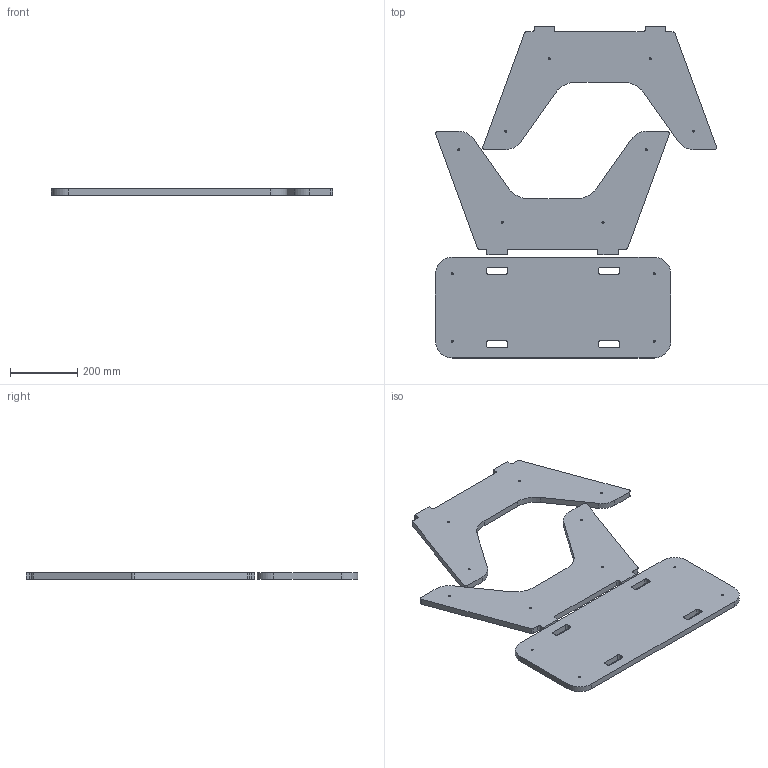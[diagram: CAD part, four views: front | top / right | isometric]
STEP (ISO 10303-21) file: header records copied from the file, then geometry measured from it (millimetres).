
FILE_DESCRIPTION(/* description */ ('','CAx-IF Rec.Pracs.---Representation and Presentation of Product Manufacturing Information (PMI)---4.0---2014-10-13'),/* implementation_level */ '2;1');
FILE_NAME(/* name */ '',/* time_stamp */ '2025-04-03T22:52:32+03:00',/* author */ (''),/* organization */ (''),/* preprocessor_version */ 'ST-DEVELOPER v20',/* originating_system */ 'Autodesk Translation Framework v13.20.0.188',/* authorisation */ '');
FILE_SCHEMA (('AP242_MANAGED_MODEL_BASED_3D_ENGINEERING_MIM_LF { 1 0 10303 442 1 1 4 }'));
Length unit declared in the file: millimetre
Products named in the file (6): Furniture ismail; Arrange1; Envelope1(Qty: 1); Component1; Component2; Component3
Assembly tree (5 placements, depth 4):
  Furniture ismail
    Arrange1
      Envelope1(Qty: 1)
        Component1
        Component2
        Component3
Bounding box: 835.72 x 987.3 x 18 mm (x, y, z)
Volume: 8348291.4 mm3; surface area: 1053917.4 mm2
Topology: 3 solids, 3 shells, 114 faces, 324 edges, 216 vertices
Faces by surface type: plane 58, cylinder 56
Full cylindrical faces by diameter (mm): 6 x12
Entity records: 3961 total; most frequent: DIRECTION 686, CARTESIAN_POINT 665, ORIENTED_EDGE 648, EDGE_CURVE 324, AXIS2_PLACEMENT_3D 237, VERTEX_POINT 216, LINE 212, VECTOR 212
